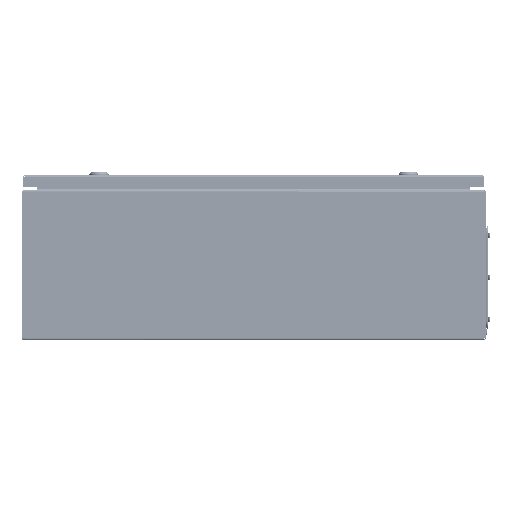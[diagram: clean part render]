
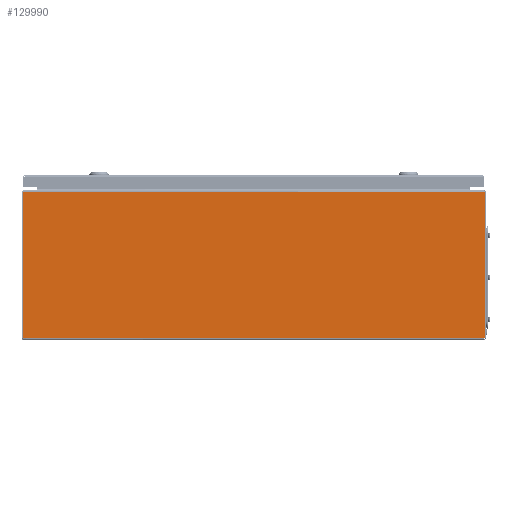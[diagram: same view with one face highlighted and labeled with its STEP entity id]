
A CAD part, left-side view. The second image highlights one B-rep face of the part: STEP entity #129990.
In plain terms, the highlighted planar face has unit normal (-1, 0, 0).
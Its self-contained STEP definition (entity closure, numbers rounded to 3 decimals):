
#2003 = VECTOR ( 'NONE', #14753, 1000. ) ;
#3050 = ORIENTED_EDGE ( 'NONE', *, *, #116883, .F. ) ;
#14301 = CARTESIAN_POINT ( 'NONE',  ( -250., -348.423, 2.9 ) ) ;
#14753 = DIRECTION ( 'NONE',  ( 0., 1., 0. ) ) ;
#18818 = ORIENTED_EDGE ( 'NONE', *, *, #126872, .T. ) ;
#19291 = CARTESIAN_POINT ( 'NONE',  ( -250., -348.423, 2.9 ) ) ;
#26279 = LINE ( 'NONE', #98612, #77125 ) ;
#35284 = LINE ( 'NONE', #108832, #2003 ) ;
#38824 = VERTEX_POINT ( 'NONE', #130513 ) ;
#39179 = EDGE_CURVE ( 'NONE', #88841, #38824, #112087, .T. ) ;
#42302 = DIRECTION ( 'NONE',  ( 0., 1., 0. ) ) ;
#53067 = LINE ( 'NONE', #19291, #180054 ) ;
#53588 = CARTESIAN_POINT ( 'NONE',  ( -250., 348.423, 223.85 ) ) ;
#54381 = CARTESIAN_POINT ( 'NONE',  ( -250., 348.529, 223.85 ) ) ;
#63266 = CARTESIAN_POINT ( 'NONE',  ( -250., -3850., 223.85 ) ) ;
#66465 = VECTOR ( 'NONE', #202572, 1000. ) ;
#70184 = LINE ( 'NONE', #219766, #146978 ) ;
#77125 = VECTOR ( 'NONE', #189172, 1000. ) ;
#80668 = ORIENTED_EDGE ( 'NONE', *, *, #133564, .F. ) ;
#86007 = LINE ( 'NONE', #88426, #154894 ) ;
#87264 = VERTEX_POINT ( 'NONE', #158778 ) ;
#88426 = CARTESIAN_POINT ( 'NONE',  ( -250., 348.423, 2.9 ) ) ;
#88841 = VERTEX_POINT ( 'NONE', #227045 ) ;
#98612 = CARTESIAN_POINT ( 'NONE',  ( -250., 348.529, 2.9 ) ) ;
#101560 = ORIENTED_EDGE ( 'NONE', *, *, #39179, .T. ) ;
#108832 = CARTESIAN_POINT ( 'NONE',  ( -250., -3850., 223.85 ) ) ;
#108941 = DIRECTION ( 'NONE',  ( 0., 1., 0. ) ) ;
#110989 = EDGE_CURVE ( 'NONE', #196291, #234090, #126665, .T. ) ;
#112087 = LINE ( 'NONE', #226587, #144703 ) ;
#112150 = DIRECTION ( 'NONE',  ( 0., -1., 0. ) ) ;
#115200 = DIRECTION ( 'NONE',  ( 1., 0., 0. ) ) ;
#116883 = EDGE_CURVE ( 'NONE', #87264, #204081, #86007, .T. ) ;
#121579 = ORIENTED_EDGE ( 'NONE', *, *, #220680, .T. ) ;
#126665 = LINE ( 'NONE', #219475, #66465 ) ;
#126872 = EDGE_CURVE ( 'NONE', #181964, #88841, #53067, .T. ) ;
#129990 = ADVANCED_FACE ( 'NONE', ( #181626 ), #200939, .F. ) ;
#130386 = EDGE_LOOP ( 'NONE', ( #160976, #132753, #184198, #3050, #80668, #18818, #101560, #121579 ) ) ;
#130513 = CARTESIAN_POINT ( 'NONE',  ( -250., -348.529, 223.85 ) ) ;
#132753 = ORIENTED_EDGE ( 'NONE', *, *, #110989, .F. ) ;
#133564 = EDGE_CURVE ( 'NONE', #181964, #87264, #70184, .T. ) ;
#136945 = EDGE_CURVE ( 'NONE', #173132, #234090, #35284, .T. ) ;
#143861 = DIRECTION ( 'NONE',  ( 0., 1., 0. ) ) ;
#144703 = VECTOR ( 'NONE', #166416, 1000. ) ;
#145514 = CARTESIAN_POINT ( 'NONE',  ( -250., 348.529, 2.9 ) ) ;
#146978 = VECTOR ( 'NONE', #143861, 1000. ) ;
#152066 = LINE ( 'NONE', #224423, #237762 ) ;
#154894 = VECTOR ( 'NONE', #108941, 1000. ) ;
#158778 = CARTESIAN_POINT ( 'NONE',  ( -250., 348.423, 2.9 ) ) ;
#160976 = ORIENTED_EDGE ( 'NONE', *, *, #136945, .T. ) ;
#166416 = DIRECTION ( 'NONE',  ( 0., 0., 1. ) ) ;
#173132 = VERTEX_POINT ( 'NONE', #235957 ) ;
#174244 = DIRECTION ( 'NONE',  ( 0., 0., -1. ) ) ;
#176994 = EDGE_CURVE ( 'NONE', #204081, #196291, #26279, .T. ) ;
#180054 = VECTOR ( 'NONE', #112150, 1000. ) ;
#181626 = FACE_OUTER_BOUND ( 'NONE', #130386, .T. ) ;
#181964 = VERTEX_POINT ( 'NONE', #14301 ) ;
#184198 = ORIENTED_EDGE ( 'NONE', *, *, #176994, .F. ) ;
#189172 = DIRECTION ( 'NONE',  ( 0., 0., 1. ) ) ;
#196291 = VERTEX_POINT ( 'NONE', #54381 ) ;
#200939 = PLANE ( 'NONE',  #235953 ) ;
#202572 = DIRECTION ( 'NONE',  ( 0., -1., 0. ) ) ;
#204081 = VERTEX_POINT ( 'NONE', #145514 ) ;
#219475 = CARTESIAN_POINT ( 'NONE',  ( -250., 348.529, 223.85 ) ) ;
#219766 = CARTESIAN_POINT ( 'NONE',  ( -250., -3850., 2.9 ) ) ;
#220680 = EDGE_CURVE ( 'NONE', #38824, #173132, #152066, .T. ) ;
#224423 = CARTESIAN_POINT ( 'NONE',  ( -250., -348.529, 223.85 ) ) ;
#226587 = CARTESIAN_POINT ( 'NONE',  ( -250., -348.529, 2.9 ) ) ;
#227045 = CARTESIAN_POINT ( 'NONE',  ( -250., -348.529, 2.9 ) ) ;
#234090 = VERTEX_POINT ( 'NONE', #53588 ) ;
#235953 = AXIS2_PLACEMENT_3D ( 'NONE', #63266, #115200, #174244 ) ;
#235957 = CARTESIAN_POINT ( 'NONE',  ( -250., -348.423, 223.85 ) ) ;
#237762 = VECTOR ( 'NONE', #42302, 1000. ) ;
